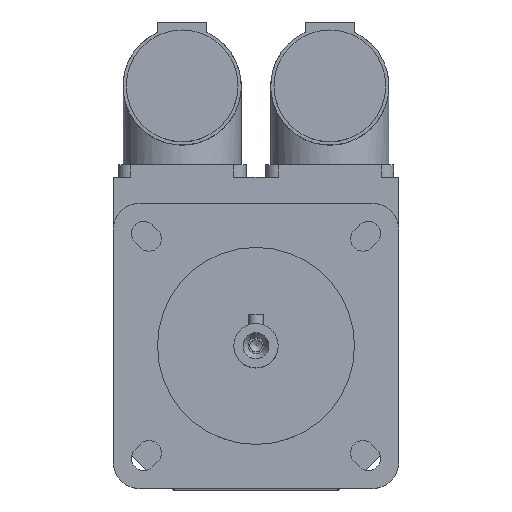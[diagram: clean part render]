
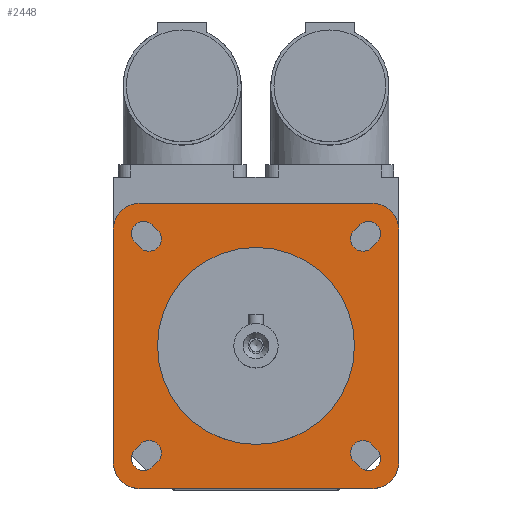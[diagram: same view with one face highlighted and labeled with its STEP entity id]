
A CAD part, top view. The second image highlights one B-rep face of the part: STEP entity #2448.
In plain terms, the highlighted planar face has unit normal (0, 0, 1).
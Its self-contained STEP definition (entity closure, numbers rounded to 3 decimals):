
#94=LINE('',#3819,#315);
#102=LINE('',#3843,#323);
#106=LINE('',#3853,#327);
#110=LINE('',#3863,#331);
#126=LINE('',#3914,#347);
#128=LINE('',#3920,#349);
#130=LINE('',#3926,#351);
#132=LINE('',#3932,#353);
#141=LINE('',#3960,#362);
#142=LINE('',#3961,#363);
#143=LINE('',#3962,#364);
#144=LINE('',#3963,#365);
#315=VECTOR('',#3029,1.5);
#323=VECTOR('',#3051,1.5);
#327=VECTOR('',#3061,1.5);
#331=VECTOR('',#3071,1.5);
#347=VECTOR('',#3117,1.5);
#349=VECTOR('',#3125,1.5);
#351=VECTOR('',#3133,1.5);
#353=VECTOR('',#3141,1.5);
#362=VECTOR('',#3172,47.);
#363=VECTOR('',#3173,47.);
#364=VECTOR('',#3174,47.);
#365=VECTOR('',#3175,47.);
#512=PLANE('',#2661);
#623=FACE_BOUND('',#851,.T.);
#624=FACE_BOUND('',#852,.T.);
#625=FACE_BOUND('',#853,.T.);
#626=FACE_BOUND('',#854,.T.);
#627=FACE_BOUND('',#855,.T.);
#699=FACE_OUTER_BOUND('',#850,.T.);
#850=EDGE_LOOP('',(#1958,#1959,#1960,#1961,#1962,#1963,#1964,#1965));
#851=EDGE_LOOP('',(#1966));
#852=EDGE_LOOP('',(#1967,#1968,#1969,#1970));
#853=EDGE_LOOP('',(#1971,#1972,#1973,#1974));
#854=EDGE_LOOP('',(#1975,#1976,#1977,#1978));
#855=EDGE_LOOP('',(#1979,#1980,#1981,#1982));
#950=CIRCLE('',#2551,20.);
#987=CIRCLE('',#2615,2.5);
#991=CIRCLE('',#2622,2.5);
#992=CIRCLE('',#2625,2.5);
#993=CIRCLE('',#2628,2.5);
#1003=CIRCLE('',#2643,2.5);
#1004=CIRCLE('',#2646,2.5);
#1005=CIRCLE('',#2649,2.5);
#1006=CIRCLE('',#2652,2.5);
#1007=CIRCLE('',#2654,5.5);
#1008=CIRCLE('',#2656,5.5);
#1009=CIRCLE('',#2658,5.5);
#1010=CIRCLE('',#2660,5.5);
#1078=VERTEX_POINT('',#3640);
#1143=VERTEX_POINT('',#3816);
#1144=VERTEX_POINT('',#3818);
#1145=VERTEX_POINT('',#3822);
#1152=VERTEX_POINT('',#3840);
#1153=VERTEX_POINT('',#3842);
#1154=VERTEX_POINT('',#3846);
#1155=VERTEX_POINT('',#3850);
#1156=VERTEX_POINT('',#3852);
#1157=VERTEX_POINT('',#3856);
#1158=VERTEX_POINT('',#3860);
#1159=VERTEX_POINT('',#3862);
#1160=VERTEX_POINT('',#3866);
#1179=VERTEX_POINT('',#3912);
#1180=VERTEX_POINT('',#3918);
#1181=VERTEX_POINT('',#3924);
#1182=VERTEX_POINT('',#3930);
#1183=VERTEX_POINT('',#3936);
#1184=VERTEX_POINT('',#3938);
#1185=VERTEX_POINT('',#3942);
#1186=VERTEX_POINT('',#3944);
#1187=VERTEX_POINT('',#3948);
#1188=VERTEX_POINT('',#3950);
#1189=VERTEX_POINT('',#3954);
#1190=VERTEX_POINT('',#3956);
#1324=EDGE_CURVE('',#1078,#1078,#950,.T.);
#1410=EDGE_CURVE('',#1144,#1143,#94,.T.);
#1413=EDGE_CURVE('',#1143,#1145,#987,.T.);
#1422=EDGE_CURVE('',#1153,#1152,#102,.T.);
#1425=EDGE_CURVE('',#1152,#1154,#991,.T.);
#1427=EDGE_CURVE('',#1156,#1155,#106,.T.);
#1430=EDGE_CURVE('',#1155,#1157,#992,.T.);
#1432=EDGE_CURVE('',#1159,#1158,#110,.T.);
#1435=EDGE_CURVE('',#1158,#1160,#993,.T.);
#1458=EDGE_CURVE('',#1157,#1179,#126,.T.);
#1459=EDGE_CURVE('',#1179,#1156,#1003,.T.);
#1461=EDGE_CURVE('',#1154,#1180,#128,.T.);
#1462=EDGE_CURVE('',#1180,#1153,#1004,.T.);
#1464=EDGE_CURVE('',#1160,#1181,#130,.T.);
#1465=EDGE_CURVE('',#1181,#1159,#1005,.T.);
#1467=EDGE_CURVE('',#1145,#1182,#132,.T.);
#1468=EDGE_CURVE('',#1182,#1144,#1006,.T.);
#1470=EDGE_CURVE('',#1184,#1183,#1007,.T.);
#1473=EDGE_CURVE('',#1186,#1185,#1008,.T.);
#1476=EDGE_CURVE('',#1188,#1187,#1009,.T.);
#1479=EDGE_CURVE('',#1190,#1189,#1010,.T.);
#1481=EDGE_CURVE('',#1183,#1190,#141,.T.);
#1482=EDGE_CURVE('',#1189,#1188,#142,.T.);
#1483=EDGE_CURVE('',#1187,#1186,#143,.T.);
#1484=EDGE_CURVE('',#1185,#1184,#144,.T.);
#1958=ORIENTED_EDGE('',*,*,#1481,.T.);
#1959=ORIENTED_EDGE('',*,*,#1479,.T.);
#1960=ORIENTED_EDGE('',*,*,#1482,.T.);
#1961=ORIENTED_EDGE('',*,*,#1476,.T.);
#1962=ORIENTED_EDGE('',*,*,#1483,.T.);
#1963=ORIENTED_EDGE('',*,*,#1473,.T.);
#1964=ORIENTED_EDGE('',*,*,#1484,.T.);
#1965=ORIENTED_EDGE('',*,*,#1470,.T.);
#1966=ORIENTED_EDGE('',*,*,#1324,.T.);
#1967=ORIENTED_EDGE('',*,*,#1458,.T.);
#1968=ORIENTED_EDGE('',*,*,#1459,.T.);
#1969=ORIENTED_EDGE('',*,*,#1427,.T.);
#1970=ORIENTED_EDGE('',*,*,#1430,.T.);
#1971=ORIENTED_EDGE('',*,*,#1461,.T.);
#1972=ORIENTED_EDGE('',*,*,#1462,.T.);
#1973=ORIENTED_EDGE('',*,*,#1422,.T.);
#1974=ORIENTED_EDGE('',*,*,#1425,.T.);
#1975=ORIENTED_EDGE('',*,*,#1464,.T.);
#1976=ORIENTED_EDGE('',*,*,#1465,.T.);
#1977=ORIENTED_EDGE('',*,*,#1432,.T.);
#1978=ORIENTED_EDGE('',*,*,#1435,.T.);
#1979=ORIENTED_EDGE('',*,*,#1467,.T.);
#1980=ORIENTED_EDGE('',*,*,#1468,.T.);
#1981=ORIENTED_EDGE('',*,*,#1410,.T.);
#1982=ORIENTED_EDGE('',*,*,#1413,.T.);
#2448=ADVANCED_FACE('',(#699,#623,#624,#625,#626,#627),#512,.T.);
#2551=AXIS2_PLACEMENT_3D('',#3641,#2854,#2855);
#2615=AXIS2_PLACEMENT_3D('',#3824,#3034,#3035);
#2622=AXIS2_PLACEMENT_3D('',#3848,#3056,#3057);
#2625=AXIS2_PLACEMENT_3D('',#3858,#3066,#3067);
#2628=AXIS2_PLACEMENT_3D('',#3868,#3076,#3077);
#2643=AXIS2_PLACEMENT_3D('',#3916,#3120,#3121);
#2646=AXIS2_PLACEMENT_3D('',#3922,#3128,#3129);
#2649=AXIS2_PLACEMENT_3D('',#3928,#3136,#3137);
#2652=AXIS2_PLACEMENT_3D('',#3934,#3144,#3145);
#2654=AXIS2_PLACEMENT_3D('',#3939,#3149,#3150);
#2656=AXIS2_PLACEMENT_3D('',#3945,#3155,#3156);
#2658=AXIS2_PLACEMENT_3D('',#3951,#3161,#3162);
#2660=AXIS2_PLACEMENT_3D('',#3957,#3167,#3168);
#2661=AXIS2_PLACEMENT_3D('',#3959,#3170,#3171);
#2854=DIRECTION('center_axis',(0.,0.,-1.));
#2855=DIRECTION('ref_axis',(-1.,0.,0.));
#3029=DIRECTION('',(-0.707,-0.707,0.));
#3034=DIRECTION('center_axis',(0.,0.,-1.));
#3035=DIRECTION('ref_axis',(0.707,-0.707,0.));
#3051=DIRECTION('',(-0.707,0.707,0.));
#3056=DIRECTION('center_axis',(0.,0.,-1.));
#3057=DIRECTION('ref_axis',(-0.707,-0.707,0.));
#3061=DIRECTION('',(-0.707,-0.707,0.));
#3066=DIRECTION('center_axis',(0.,0.,-1.));
#3067=DIRECTION('ref_axis',(0.707,-0.707,0.));
#3071=DIRECTION('',(-0.707,0.707,0.));
#3076=DIRECTION('center_axis',(0.,0.,-1.));
#3077=DIRECTION('ref_axis',(-0.707,-0.707,0.));
#3117=DIRECTION('',(0.707,0.707,0.));
#3120=DIRECTION('center_axis',(0.,0.,-1.));
#3121=DIRECTION('ref_axis',(-0.707,0.707,0.));
#3125=DIRECTION('',(0.707,-0.707,0.));
#3128=DIRECTION('center_axis',(0.,0.,-1.));
#3129=DIRECTION('ref_axis',(0.707,0.707,0.));
#3133=DIRECTION('',(0.707,-0.707,0.));
#3136=DIRECTION('center_axis',(0.,0.,-1.));
#3137=DIRECTION('ref_axis',(0.707,0.707,0.));
#3141=DIRECTION('',(0.707,0.707,0.));
#3144=DIRECTION('center_axis',(0.,0.,-1.));
#3145=DIRECTION('ref_axis',(-0.707,0.707,0.));
#3149=DIRECTION('center_axis',(0.,0.,1.));
#3150=DIRECTION('ref_axis',(1.,0.,0.));
#3155=DIRECTION('center_axis',(0.,0.,1.));
#3156=DIRECTION('ref_axis',(0.,-1.,0.));
#3161=DIRECTION('center_axis',(0.,0.,1.));
#3162=DIRECTION('ref_axis',(-1.,0.,0.));
#3167=DIRECTION('center_axis',(0.,0.,1.));
#3168=DIRECTION('ref_axis',(0.,1.,0.));
#3170=DIRECTION('center_axis',(0.,0.,1.));
#3171=DIRECTION('ref_axis',(1.,0.,0.));
#3172=DIRECTION('',(-1.,0.,0.));
#3173=DIRECTION('',(0.,-1.,0.));
#3174=DIRECTION('',(1.,0.,0.));
#3175=DIRECTION('',(0.,1.,0.));
#3640=CARTESIAN_POINT('',(20.,0.,134.5));
#3641=CARTESIAN_POINT('Origin',(0.,0.,134.5));
#3816=CARTESIAN_POINT('',(-21.036,-24.572,134.5));
#3818=CARTESIAN_POINT('',(-19.976,-23.511,134.5));
#3819=CARTESIAN_POINT('',(-9.634,-13.17,134.5));
#3822=CARTESIAN_POINT('',(-24.572,-21.036,134.5));
#3824=CARTESIAN_POINT('Origin',(-22.804,-22.804,134.5));
#3840=CARTESIAN_POINT('',(-24.572,21.036,134.5));
#3842=CARTESIAN_POINT('',(-23.511,19.976,134.5));
#3843=CARTESIAN_POINT('',(-13.17,9.634,134.5));
#3846=CARTESIAN_POINT('',(-21.036,24.572,134.5));
#3848=CARTESIAN_POINT('Origin',(-22.804,22.804,134.5));
#3850=CARTESIAN_POINT('',(23.511,19.976,134.5));
#3852=CARTESIAN_POINT('',(24.572,21.036,134.5));
#3853=CARTESIAN_POINT('',(12.64,9.104,134.5));
#3856=CARTESIAN_POINT('',(19.976,23.511,134.5));
#3858=CARTESIAN_POINT('Origin',(21.744,21.744,134.5));
#3860=CARTESIAN_POINT('',(19.976,-23.511,134.5));
#3862=CARTESIAN_POINT('',(21.036,-24.572,134.5));
#3863=CARTESIAN_POINT('',(9.104,-12.64,134.5));
#3866=CARTESIAN_POINT('',(23.511,-19.976,134.5));
#3868=CARTESIAN_POINT('Origin',(21.744,-21.744,134.5));
#3912=CARTESIAN_POINT('',(21.036,24.572,134.5));
#3914=CARTESIAN_POINT('',(9.634,13.17,134.5));
#3916=CARTESIAN_POINT('Origin',(22.804,22.804,134.5));
#3918=CARTESIAN_POINT('',(-19.976,23.511,134.5));
#3920=CARTESIAN_POINT('',(-9.104,12.64,134.5));
#3922=CARTESIAN_POINT('Origin',(-21.744,21.744,134.5));
#3924=CARTESIAN_POINT('',(24.572,-21.036,134.5));
#3926=CARTESIAN_POINT('',(13.17,-9.634,134.5));
#3928=CARTESIAN_POINT('Origin',(22.804,-22.804,134.5));
#3930=CARTESIAN_POINT('',(-23.511,-19.976,134.5));
#3932=CARTESIAN_POINT('',(-12.64,-9.104,134.5));
#3934=CARTESIAN_POINT('Origin',(-21.744,-21.744,134.5));
#3936=CARTESIAN_POINT('',(23.5,29.,134.5));
#3938=CARTESIAN_POINT('',(29.,23.5,134.5));
#3939=CARTESIAN_POINT('Origin',(23.5,23.5,134.5));
#3942=CARTESIAN_POINT('',(29.,-23.5,134.5));
#3944=CARTESIAN_POINT('',(23.5,-29.,134.5));
#3945=CARTESIAN_POINT('Origin',(23.5,-23.5,134.5));
#3948=CARTESIAN_POINT('',(-23.5,-29.,134.5));
#3950=CARTESIAN_POINT('',(-29.,-23.5,134.5));
#3951=CARTESIAN_POINT('Origin',(-23.5,-23.5,134.5));
#3954=CARTESIAN_POINT('',(-29.,23.5,134.5));
#3956=CARTESIAN_POINT('',(-23.5,29.,134.5));
#3957=CARTESIAN_POINT('Origin',(-23.5,23.5,134.5));
#3959=CARTESIAN_POINT('Origin',(0.,0.,
134.5));
#3960=CARTESIAN_POINT('',(23.5,29.,134.5));
#3961=CARTESIAN_POINT('',(-29.,23.5,134.5));
#3962=CARTESIAN_POINT('',(-23.5,-29.,134.5));
#3963=CARTESIAN_POINT('',(29.,-23.5,134.5));
